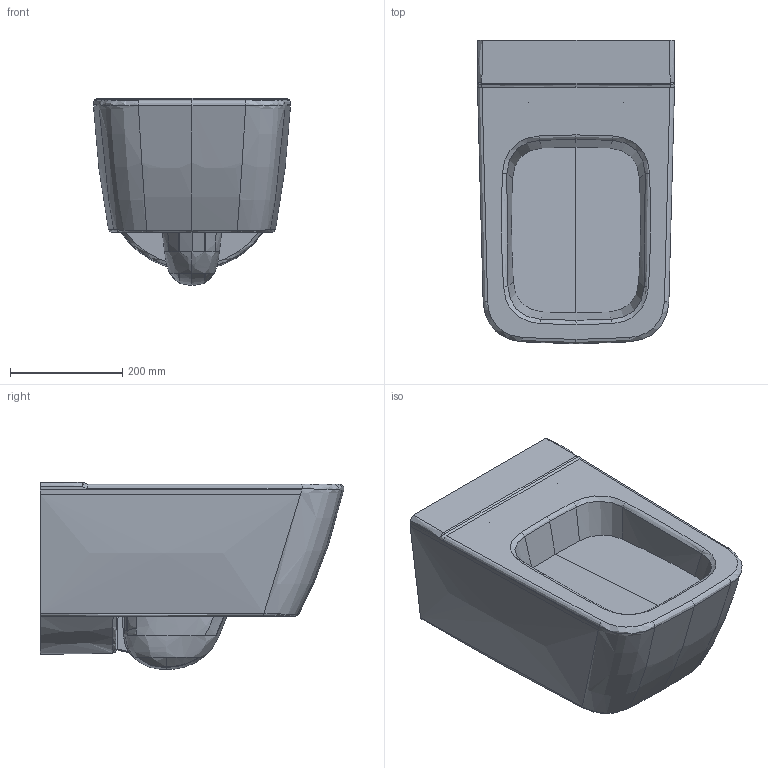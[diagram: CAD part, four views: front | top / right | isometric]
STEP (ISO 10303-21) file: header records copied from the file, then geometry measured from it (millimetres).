
FILE_DESCRIPTION(/* description */ (''),/* implementation_level */ '2;1');
FILE_NAME(/* name */ 'C:\Planerdaten\Export PLA\201950000\stp\201950000.stp',/* time_stamp */ '2020-05-29T12:48:15+02:00',/* author */ ('JANAN'),/* organization */ (''),/* preprocessor_version */ 'ST-DEVELOPER v16.13',/* originating_system */ 'Autodesk Inventor 2018',/* authorisation */ '');
FILE_SCHEMA (('AUTOMOTIVE_DESIGN { 1 0 10303 214 3 1 1 }'));
Length unit declared in the file: millimetre
Products named in the file (1): WWC-T Ge+iCnS T54 Rfree
Bounding box: 350.55 x 540.17 x 332.98 mm (x, y, z)
Volume: 29131929.3 mm3; surface area: 964581.4 mm2
Topology: 1 solids, 1 shells, 178 faces, 450 edges, 275 vertices
Faces by surface type: bspline 138, plane 23, cylinder 10, cone 7
Full cylindrical faces by diameter (mm): 48.509 x2
Entity records: 21609 total; most frequent: CARTESIAN_POINT 18121, ORIENTED_EDGE 866, EDGE_CURVE 433, DIRECTION 343, VERTEX_POINT 278, B_SPLINE_CURVE_WITH_KNOTS 276, EDGE_LOOP 199, STYLED_ITEM 179
